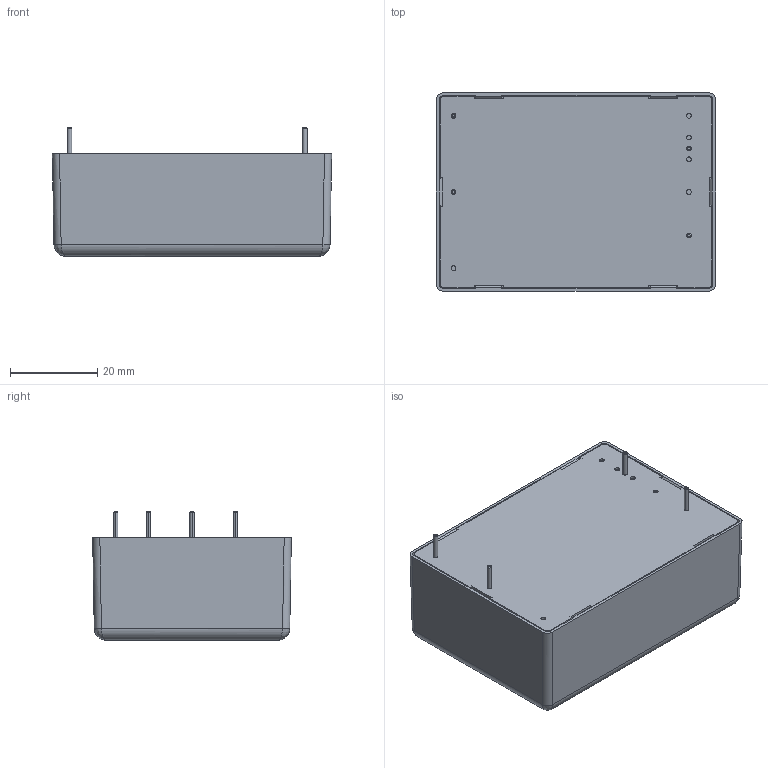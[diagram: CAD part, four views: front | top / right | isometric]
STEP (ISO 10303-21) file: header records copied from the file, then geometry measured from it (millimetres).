
FILE_DESCRIPTION (( 'STEP AP203' ), '1' );
FILE_NAME ('TMF30.STEP', '2016-11-07T15:35:11', ( '' ), ( '' ), 'SwSTEP 2.0', 'SolidWorks 2013', '' );
FILE_SCHEMA (( 'CONFIG_CONTROL_DESIGN' ));
Length unit declared in the file: millimetre
Products named in the file (1): TMF30
Bounding box: 64.1 x 45.6 x 29.5 mm (x, y, z)
Surface area: 21409.4 mm2 (no closed solid volume)
Topology: 0 solids, 7 shells, 141 faces, 392 edges, 254 vertices
Faces by surface type: plane 77, cylinder 42, bspline 12, cone 10
Entity records: 4951 total; most frequent: CARTESIAN_POINT 1364, DIRECTION 710, ORIENTED_EDGE 706, EDGE_CURVE 388, VECTOR 270, LINE 270, VERTEX_POINT 254, AXIS2_PLACEMENT_3D 220
